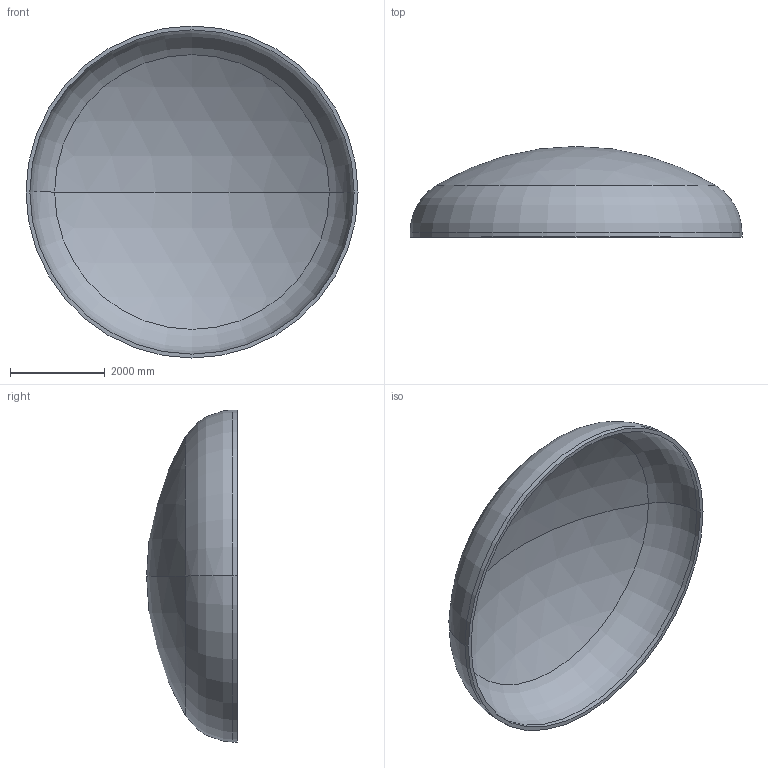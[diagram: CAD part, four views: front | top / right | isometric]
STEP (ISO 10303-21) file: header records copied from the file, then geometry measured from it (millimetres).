
FILE_DESCRIPTION (( 'STEP AP203' ), '1' );
FILE_NAME ('DIN 28013 Korbbogenform_-_Boden DIN 28013 - 7000 x 100 - I - s=82.step', '2016-07-04T10:49:18', ( '' ), ( '' ), 'SwSTEP 2.0', 'SolidWorks 2013', '' );
FILE_SCHEMA (( 'CONFIG_CONTROL_DESIGN' ));
Length unit declared in the file: millimetre
Products named in the file (1): DIN 28013 Korbbogenform_-_Boden DIN 28013 - 7000 x 100 - I - s=82
Bounding box: 7000 x 1913.65 x 7000 mm (x, y, z)
Volume: 4483248216.5 mm3; surface area: 111143708.3 mm2
Topology: 1 solids, 1 shells, 13 faces, 24 edges, 14 vertices
Faces by surface type: torus 4, cylinder 4, sphere 4, plane 1
Entity records: 407 total; most frequent: DIRECTION 72, CARTESIAN_POINT 52, ORIENTED_EDGE 48, AXIS2_PLACEMENT_3D 34, EDGE_CURVE 24, CIRCLE 20, VERTEX_POINT 14, EDGE_LOOP 14
